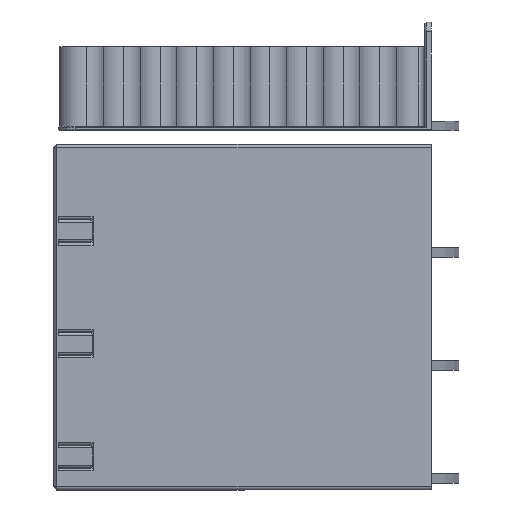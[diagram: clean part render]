
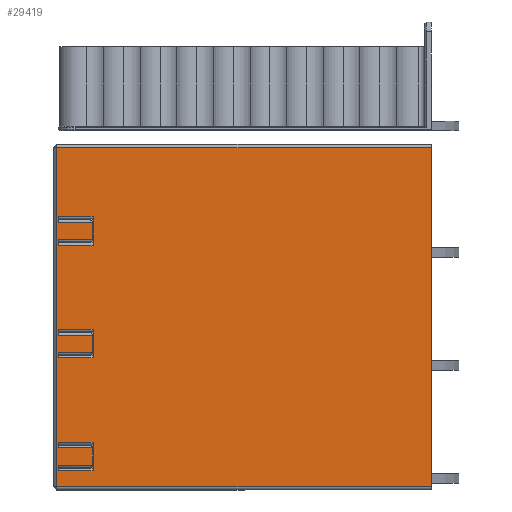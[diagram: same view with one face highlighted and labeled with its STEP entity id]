
A CAD part, front view. The second image highlights one B-rep face of the part: STEP entity #29419.
In plain terms, the highlighted planar face has unit normal (0, -1, 0).
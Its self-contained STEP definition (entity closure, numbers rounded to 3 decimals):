
#251=FACE_BOUND('',#5242,.T.);
#252=FACE_BOUND('',#5243,.T.);
#253=FACE_BOUND('',#5244,.T.);
#3435=FACE_OUTER_BOUND('',#5241,.T.);
#5241=EDGE_LOOP('',(#25871,#25872,#25873,#25874));
#5242=EDGE_LOOP('',(#25875,#25876,#25877,#25878,#25879,#25880,#25881,#25882));
#5243=EDGE_LOOP('',(#25883,#25884,#25885,#25886,#25887,#25888,#25889,#25890));
#5244=EDGE_LOOP('',(#25891,#25892,#25893,#25894,#25895,#25896,#25897,#25898));
#8043=LINE('',#48324,#11076);
#8047=LINE('',#48340,#11080);
#8101=LINE('',#48506,#11134);
#8105=LINE('',#48522,#11138);
#8164=LINE('',#48699,#11197);
#8168=LINE('',#48715,#11201);
#8200=LINE('',#48803,#11233);
#8239=LINE('',#48889,#11272);
#8240=LINE('',#48892,#11273);
#8241=LINE('',#48893,#11274);
#8242=LINE('',#48895,#11275);
#8243=LINE('',#48897,#11276);
#8244=LINE('',#48898,#11277);
#8245=LINE('',#48900,#11278);
#8246=LINE('',#48902,#11279);
#8247=LINE('',#48903,#11280);
#8248=LINE('',#48905,#11281);
#8249=LINE('',#48907,#11282);
#8250=LINE('',#48908,#11283);
#8251=LINE('',#48910,#11284);
#8252=LINE('',#48912,#11285);
#8253=LINE('',#48913,#11286);
#8254=LINE('',#48915,#11287);
#8255=LINE('',#48917,#11288);
#8256=LINE('',#48918,#11289);
#8257=LINE('',#48920,#11290);
#8258=LINE('',#48922,#11291);
#8259=LINE('',#48923,#11292);
#11076=VECTOR('',#39597,10.);
#11080=VECTOR('',#39609,10.);
#11134=VECTOR('',#39755,10.);
#11138=VECTOR('',#39767,10.);
#11197=VECTOR('',#39922,10.);
#11201=VECTOR('',#39934,10.);
#11233=VECTOR('',#40018,10.);
#11272=VECTOR('',#40097,10.);
#11273=VECTOR('',#40100,10.);
#11274=VECTOR('',#40101,10.);
#11275=VECTOR('',#40102,10.);
#11276=VECTOR('',#40103,10.);
#11277=VECTOR('',#40104,10.);
#11278=VECTOR('',#40105,10.);
#11279=VECTOR('',#40106,10.);
#11280=VECTOR('',#40107,10.);
#11281=VECTOR('',#40108,10.);
#11282=VECTOR('',#40109,10.);
#11283=VECTOR('',#40110,10.);
#11284=VECTOR('',#40111,10.);
#11285=VECTOR('',#40112,10.);
#11286=VECTOR('',#40113,10.);
#11287=VECTOR('',#40114,10.);
#11288=VECTOR('',#40115,10.);
#11289=VECTOR('',#40116,10.);
#11290=VECTOR('',#40117,10.);
#11291=VECTOR('',#40118,10.);
#11292=VECTOR('',#40119,10.);
#13837=VERTEX_POINT('',#48321);
#13838=VERTEX_POINT('',#48323);
#13845=VERTEX_POINT('',#48337);
#13846=VERTEX_POINT('',#48339);
#13911=VERTEX_POINT('',#48503);
#13912=VERTEX_POINT('',#48505);
#13919=VERTEX_POINT('',#48519);
#13920=VERTEX_POINT('',#48521);
#13989=VERTEX_POINT('',#48696);
#13990=VERTEX_POINT('',#48698);
#13997=VERTEX_POINT('',#48712);
#13998=VERTEX_POINT('',#48714);
#14025=VERTEX_POINT('',#48796);
#14028=VERTEX_POINT('',#48801);
#14055=VERTEX_POINT('',#48887);
#14056=VERTEX_POINT('',#48891);
#14057=VERTEX_POINT('',#48894);
#14058=VERTEX_POINT('',#48896);
#14059=VERTEX_POINT('',#48899);
#14060=VERTEX_POINT('',#48901);
#14061=VERTEX_POINT('',#48904);
#14062=VERTEX_POINT('',#48906);
#14063=VERTEX_POINT('',#48909);
#14064=VERTEX_POINT('',#48911);
#14065=VERTEX_POINT('',#48914);
#14066=VERTEX_POINT('',#48916);
#14067=VERTEX_POINT('',#48919);
#14068=VERTEX_POINT('',#48921);
#17779=EDGE_CURVE('',#13838,#13837,#8043,.T.);
#17787=EDGE_CURVE('',#13846,#13845,#8047,.T.);
#17871=EDGE_CURVE('',#13912,#13911,#8101,.T.);
#17879=EDGE_CURVE('',#13920,#13919,#8105,.T.);
#17969=EDGE_CURVE('',#13990,#13989,#8164,.T.);
#17977=EDGE_CURVE('',#13998,#13997,#8168,.T.);
#18022=EDGE_CURVE('',#14028,#14025,#8200,.T.);
#18068=EDGE_CURVE('',#14055,#14028,#8239,.T.);
#18069=EDGE_CURVE('',#14055,#14056,#8240,.T.);
#18070=EDGE_CURVE('',#14025,#14056,#8241,.T.);
#18071=EDGE_CURVE('',#14057,#13845,#8242,.T.);
#18072=EDGE_CURVE('',#14057,#14058,#8243,.T.);
#18073=EDGE_CURVE('',#13838,#14058,#8244,.T.);
#18074=EDGE_CURVE('',#14059,#13837,#8245,.T.);
#18075=EDGE_CURVE('',#14059,#14060,#8246,.T.);
#18076=EDGE_CURVE('',#13846,#14060,#8247,.T.);
#18077=EDGE_CURVE('',#14061,#13919,#8248,.T.);
#18078=EDGE_CURVE('',#14061,#14062,#8249,.T.);
#18079=EDGE_CURVE('',#13912,#14062,#8250,.T.);
#18080=EDGE_CURVE('',#14063,#13911,#8251,.T.);
#18081=EDGE_CURVE('',#14063,#14064,#8252,.T.);
#18082=EDGE_CURVE('',#13920,#14064,#8253,.T.);
#18083=EDGE_CURVE('',#14065,#13997,#8254,.T.);
#18084=EDGE_CURVE('',#14065,#14066,#8255,.T.);
#18085=EDGE_CURVE('',#13990,#14066,#8256,.T.);
#18086=EDGE_CURVE('',#14067,#13989,#8257,.T.);
#18087=EDGE_CURVE('',#14067,#14068,#8258,.T.);
#18088=EDGE_CURVE('',#13998,#14068,#8259,.T.);
#25871=ORIENTED_EDGE('',*,*,#18022,.F.);
#25872=ORIENTED_EDGE('',*,*,#18068,.F.);
#25873=ORIENTED_EDGE('',*,*,#18069,.T.);
#25874=ORIENTED_EDGE('',*,*,#18070,.F.);
#25875=ORIENTED_EDGE('',*,*,#17787,.T.);
#25876=ORIENTED_EDGE('',*,*,#18071,.F.);
#25877=ORIENTED_EDGE('',*,*,#18072,.T.);
#25878=ORIENTED_EDGE('',*,*,#18073,.F.);
#25879=ORIENTED_EDGE('',*,*,#17779,.T.);
#25880=ORIENTED_EDGE('',*,*,#18074,.F.);
#25881=ORIENTED_EDGE('',*,*,#18075,.T.);
#25882=ORIENTED_EDGE('',*,*,#18076,.F.);
#25883=ORIENTED_EDGE('',*,*,#17879,.T.);
#25884=ORIENTED_EDGE('',*,*,#18077,.F.);
#25885=ORIENTED_EDGE('',*,*,#18078,.T.);
#25886=ORIENTED_EDGE('',*,*,#18079,.F.);
#25887=ORIENTED_EDGE('',*,*,#17871,.T.);
#25888=ORIENTED_EDGE('',*,*,#18080,.F.);
#25889=ORIENTED_EDGE('',*,*,#18081,.T.);
#25890=ORIENTED_EDGE('',*,*,#18082,.F.);
#25891=ORIENTED_EDGE('',*,*,#17977,.T.);
#25892=ORIENTED_EDGE('',*,*,#18083,.F.);
#25893=ORIENTED_EDGE('',*,*,#18084,.T.);
#25894=ORIENTED_EDGE('',*,*,#18085,.F.);
#25895=ORIENTED_EDGE('',*,*,#17969,.T.);
#25896=ORIENTED_EDGE('',*,*,#18086,.F.);
#25897=ORIENTED_EDGE('',*,*,#18087,.T.);
#25898=ORIENTED_EDGE('',*,*,#18088,.F.);
#27930=PLANE('',#32106);
#29419=ADVANCED_FACE('',(#3435,#251,#252,#253),#27930,.T.);
#32106=AXIS2_PLACEMENT_3D('',#48890,#40098,#40099);
#39597=DIRECTION('',(0.,0.,1.));
#39609=DIRECTION('',(0.,0.,1.));
#39755=DIRECTION('',(0.,0.,1.));
#39767=DIRECTION('',(0.,0.,1.));
#39922=DIRECTION('',(0.,0.,1.));
#39934=DIRECTION('',(0.,0.,1.));
#40018=DIRECTION('',(0.,0.,1.));
#40097=DIRECTION('',(-1.,0.,0.));
#40098=DIRECTION('center_axis',(0.,-1.,0.));
#40099=DIRECTION('ref_axis',(0.,0.,1.));
#40100=DIRECTION('',(0.,0.,1.));
#40101=DIRECTION('',(1.,0.,0.));
#40102=DIRECTION('',(-1.,0.,0.));
#40103=DIRECTION('',(0.,0.,1.));
#40104=DIRECTION('',(1.,0.,0.));
#40105=DIRECTION('',(-1.,0.,0.));
#40106=DIRECTION('',(0.,0.,-1.));
#40107=DIRECTION('',(1.,0.,0.));
#40108=DIRECTION('',(-1.,0.,0.));
#40109=DIRECTION('',(0.,0.,1.));
#40110=DIRECTION('',(1.,0.,0.));
#40111=DIRECTION('',(-1.,0.,0.));
#40112=DIRECTION('',(0.,0.,-1.));
#40113=DIRECTION('',(1.,0.,0.));
#40114=DIRECTION('',(-1.,0.,0.));
#40115=DIRECTION('',(0.,0.,1.));
#40116=DIRECTION('',(1.,0.,0.));
#40117=DIRECTION('',(-1.,0.,0.));
#40118=DIRECTION('',(0.,0.,-1.));
#40119=DIRECTION('',(1.,0.,0.));
#48321=CARTESIAN_POINT('',(0.,-25.95,9.1));
#48323=CARTESIAN_POINT('',(0.,-25.95,7.7));
#48324=CARTESIAN_POINT('',(0.,-25.95,-0.23));
#48337=CARTESIAN_POINT('',(0.,-25.95,3.3));
#48339=CARTESIAN_POINT('',(0.,-25.95,1.9));
#48340=CARTESIAN_POINT('',(0.,-25.95,-0.23));
#48503=CARTESIAN_POINT('',(0.,-25.95,37.6));
#48505=CARTESIAN_POINT('',(0.,-25.95,36.2));
#48506=CARTESIAN_POINT('',(0.,-25.95,14.02));
#48519=CARTESIAN_POINT('',(0.,-25.95,31.8));
#48521=CARTESIAN_POINT('',(0.,-25.95,30.4));
#48522=CARTESIAN_POINT('',(0.,-25.95,14.02));
#48696=CARTESIAN_POINT('',(0.,-25.95,66.1));
#48698=CARTESIAN_POINT('',(0.,-25.95,64.7));
#48699=CARTESIAN_POINT('',(0.,-25.95,28.27));
#48712=CARTESIAN_POINT('',(0.,-25.95,60.3));
#48714=CARTESIAN_POINT('',(0.,-25.95,58.9));
#48715=CARTESIAN_POINT('',(0.,-25.95,28.27));
#48796=CARTESIAN_POINT('',(-0.4,-25.95,83.55));
#48801=CARTESIAN_POINT('',(-0.4,-25.95,-2.16));
#48803=CARTESIAN_POINT('',(-0.4,-25.95,18.868));
#48887=CARTESIAN_POINT('',(94.3,-25.95,-2.16));
#48889=CARTESIAN_POINT('',(0.,-25.95,-2.16));
#48890=CARTESIAN_POINT('Origin',(0.,-25.95,-2.96));
#48891=CARTESIAN_POINT('',(94.3,-25.95,83.55));
#48892=CARTESIAN_POINT('',(94.3,-25.95,62.523));
#48893=CARTESIAN_POINT('',(0.,-25.95,83.55));
#48894=CARTESIAN_POINT('',(8.596,-25.95,3.3));
#48895=CARTESIAN_POINT('',(2.149,-25.95,3.3));
#48896=CARTESIAN_POINT('',(8.596,-25.95,7.7));
#48897=CARTESIAN_POINT('',(8.596,-25.95,2.7));
#48898=CARTESIAN_POINT('',(2.149,-25.95,7.7));
#48899=CARTESIAN_POINT('',(8.796,-25.95,9.1));
#48900=CARTESIAN_POINT('',(2.199,-25.95,9.1));
#48901=CARTESIAN_POINT('',(8.796,-25.95,1.9));
#48902=CARTESIAN_POINT('',(8.796,-25.95,-0.23));
#48903=CARTESIAN_POINT('',(2.199,-25.95,1.9));
#48904=CARTESIAN_POINT('',(8.596,-25.95,31.8));
#48905=CARTESIAN_POINT('',(2.149,-25.95,31.8));
#48906=CARTESIAN_POINT('',(8.596,-25.95,36.2));
#48907=CARTESIAN_POINT('',(8.596,-25.95,31.2));
#48908=CARTESIAN_POINT('',(2.149,-25.95,36.2));
#48909=CARTESIAN_POINT('',(8.796,-25.95,37.6));
#48910=CARTESIAN_POINT('',(2.199,-25.95,37.6));
#48911=CARTESIAN_POINT('',(8.796,-25.95,30.4));
#48912=CARTESIAN_POINT('',(8.796,-25.95,14.02));
#48913=CARTESIAN_POINT('',(2.199,-25.95,30.4));
#48914=CARTESIAN_POINT('',(8.596,-25.95,60.3));
#48915=CARTESIAN_POINT('',(2.149,-25.95,60.3));
#48916=CARTESIAN_POINT('',(8.596,-25.95,64.7));
#48917=CARTESIAN_POINT('',(8.596,-25.95,59.7));
#48918=CARTESIAN_POINT('',(2.149,-25.95,64.7));
#48919=CARTESIAN_POINT('',(8.796,-25.95,66.1));
#48920=CARTESIAN_POINT('',(2.199,-25.95,66.1));
#48921=CARTESIAN_POINT('',(8.796,-25.95,58.9));
#48922=CARTESIAN_POINT('',(8.796,-25.95,28.27));
#48923=CARTESIAN_POINT('',(2.199,-25.95,58.9));
